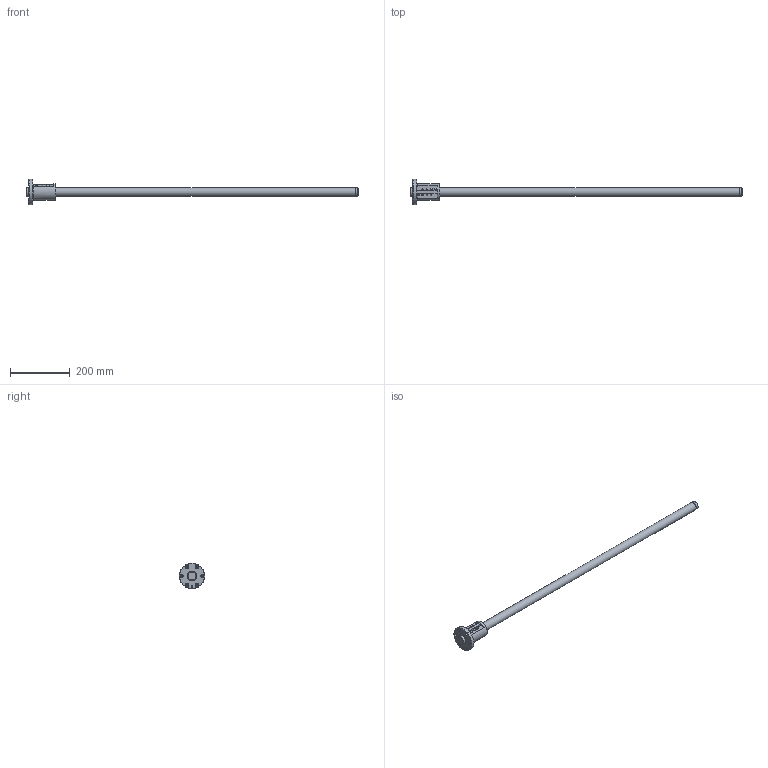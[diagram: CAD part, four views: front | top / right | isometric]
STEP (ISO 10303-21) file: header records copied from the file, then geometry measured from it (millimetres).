
FILE_DESCRIPTION( ( 'STEP AP203' ), ' ' );
FILE_NAME( 'p:/temp/worker_50/3228_2824/app_90_12018011811303046343436818fa3fd_000000_00_00_000000/format_0/BIF2805-10RRG0+1109LC0_10000.stp', '2018-01-18T10:30:31', ( '' ), ( '' ), ' ', 'PARTsolutions', ' ' );
FILE_SCHEMA( ( 'CONFIG_CONTROL_DESIGN' ) );
Length unit declared in the file: millimetre
Products named in the file (3): BIF2805-10RRG0+1109LC0_10000; _BIF 2805-10RR1000500 Shaft; _BIF 2805-10RR Nut
Assembly tree (2 placements, depth 2):
  BIF2805-10RRG0+1109LC0_10000
    _BIF 2805-10RR1000500 Shaft
    _BIF 2805-10RR Nut
Bounding box: 1109 x 85 x 85 mm (x, y, z)
Volume: 858020 mm3; surface area: 136936.2 mm2
Topology: 2 solids, 2 shells, 98 faces, 218 edges, 144 vertices
Faces by surface type: cylinder 47, plane 35, cone 8, torus 8
Full cylindrical faces by diameter (mm): 4.25 x2, 4.917 x1, 5.1 x8, 6.6 x6, 11 x6, 27.5 x2, 28 x4, 33 x2, 55 x1, 85 x1
Entity records: 3258 total; most frequent: CARTESIAN_POINT 1065, DIRECTION 456, ORIENTED_EDGE 326, AXIS2_PLACEMENT_3D 208, EDGE_LOOP 191, EDGE_CURVE 163, VERTEX_POINT 137, FACE_OUTER_BOUND 131
